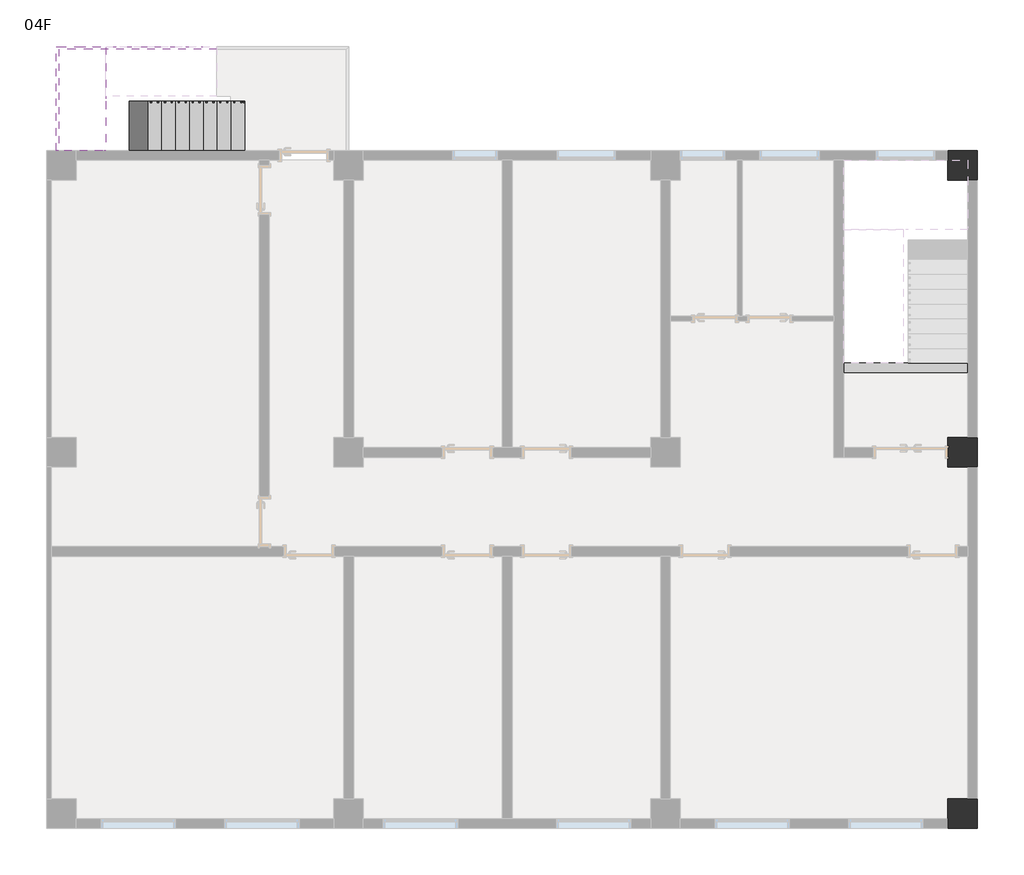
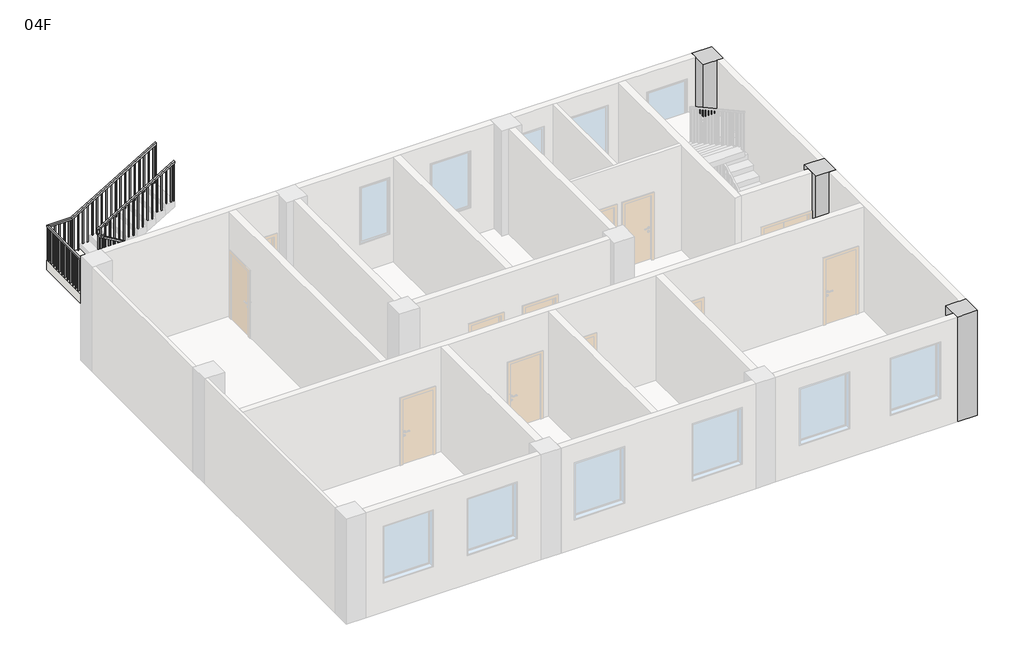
# One storey, part 2 of 3: 3 columns, 2 railings, 1 beam, 1 slab, 1 stair flight.
"""IFC4 building model written with IfcOpenShell, lengths in millimetres."""

import ifcopenshell
import ifcopenshell.guid

model = None  # the IFC model being written
_history = None  # IfcOwnerHistory: only IFC2X3 demands one
_inside = {}  # id of a spatial element -> (the spatial element, [elements in it])
_under = {}  # id of a project, library or spatial element -> (it, [spatial elements below it])
_declared = {}  # id of a project -> (the project, [libraries it declares])
_typed = {}  # id of a type object -> (the type object, [elements of that type])
_made_of = {}  # id of a material, layer set ... -> (it, [elements and type objects made of it])


def new_model(schema):
    """Start an empty IFC model of exactly this schema.

    Asked for "IFC4X3", IfcOpenShell would pick the latest addendum, in which some entities
    have other attributes; the version numbers below select the first issue.
    IFC2X3 requires an IfcOwnerHistory on every rooted entity: one is made here for all.
    """
    global model, _history
    if schema == "IFC4X3":
        model = ifcopenshell.file(schema_version=(4, 3, 0, 0))
    else:
        model = ifcopenshell.file(schema=schema)
    _inside.clear()
    _under.clear()
    _declared.clear()
    _typed.clear()
    _made_of.clear()
    _history = None
    if model.schema == "IFC2X3":
        org = make("IfcOrganization", Name="unknown")
        user = make(
            "IfcPersonAndOrganization",
            ThePerson=make("IfcPerson", FamilyName="unknown"),
            TheOrganization=org,
        )
        app = make(
            "IfcApplication",
            ApplicationDeveloper=org,
            Version="unknown",
            ApplicationFullName="unknown",
            ApplicationIdentifier="unknown",
        )
        _history = make(
            "IfcOwnerHistory",
            OwningUser=user,
            OwningApplication=app,
            ChangeAction="ADDED",
            CreationDate=0,
        )
    return model


def make(cls, **values):
    """One entity of the class cls with the attributes given. An attribute that is None is left unset."""
    return model.create_entity(
        cls, **{name: value for name, value in values.items() if value is not None}
    )


def rooted(cls, **values):
    """An entity with a GlobalId (a new one), such as an element, a storey or a relation."""
    return make(cls, GlobalId=ifcopenshell.guid.new(), OwnerHistory=_history, **values)


def si_unit(unit_type, name, prefix=None):
    """IfcSIUnit, for example si_unit("LENGTHUNIT", "METRE", prefix="MILLI")."""
    return make("IfcSIUnit", UnitType=unit_type, Prefix=prefix, Name=name)


def assignment(units):
    """IfcUnitAssignment: the units of a project."""
    return None if units is None else make("IfcUnitAssignment", Units=units)


def point(xyz):
    """IfcCartesianPoint."""
    return None if xyz is None else make("IfcCartesianPoint", Coordinates=xyz)


def direction(xyz):
    """IfcDirection."""
    return None if xyz is None else make("IfcDirection", DirectionRatios=xyz)


def frame(location, z_axis=None, x_axis=None):
    """IfcAxis2Placement3D, a coordinate frame: its origin and axes. An axis left out is left unset."""
    return make(
        "IfcAxis2Placement3D",
        Location=point(location),
        Axis=direction(z_axis),
        RefDirection=direction(x_axis),
    )


def origin():
    """The frame at (0, 0, 0) with its axes left unset."""
    return frame((0.0, 0.0, 0.0))


def place(relative_to, where):
    """IfcLocalPlacement: puts the frame where relative to a parent placement (None: the world)."""
    return make(
        "IfcLocalPlacement", PlacementRelTo=relative_to, RelativePlacement=where
    )


def context(
    kind, dimensions, precision=None, world=None, true_north=None, identifier=None
):
    """IfcGeometricRepresentationContext, for example the 3D "Model" context."""
    return make(
        "IfcGeometricRepresentationContext",
        ContextIdentifier=identifier,
        ContextType=kind,
        CoordinateSpaceDimension=dimensions,
        Precision=precision,
        WorldCoordinateSystem=world,
        TrueNorth=true_north,
    )


def project(units=None, contexts=None):
    """IfcProject with its units and contexts."""
    return rooted(
        "IfcProject",
        Name="project",
        RepresentationContexts=contexts,
        UnitsInContext=assignment(units),
    )


def spatial(cls, under=None, at=None, **own):
    """A site, building, storey or space (cls), placed at a placement, below another one or the project."""
    s = rooted(cls, ObjectPlacement=at, **own)
    if under is not None:
        _under.setdefault(under.id(), (under, []))[1].append(s)
    return s


def polyline(points):
    """IfcPolyline through the points."""
    return make("IfcPolyline", Points=[point(p) for p in points])


def outline(outer, holes=None, kind="AREA"):
    """IfcArbitraryClosedProfileDef: a profile drawn as a closed curve; with holes, ...WithVoids."""
    if holes is None:
        return make("IfcArbitraryClosedProfileDef", ProfileType=kind, OuterCurve=outer)
    return make(
        "IfcArbitraryProfileDefWithVoids",
        ProfileType=kind,
        OuterCurve=outer,
        InnerCurves=holes,
    )


def extrude(swept, where, along, depth):
    """IfcExtrudedAreaSolid: the profile swept, set in the frame where, extruded along a direction by depth."""
    return make(
        "IfcExtrudedAreaSolid",
        SweptArea=swept,
        Position=where,
        ExtrudedDirection=direction(along),
        Depth=depth,
    )


def faces_of(points, faces, orient=None, outer=None):
    """IfcFace entities. A face is a list of loops; a loop is a list of indices into points, from 0.

    orient and outer hold one flag for each loop. By default every Orientation is true, the
    first loop of a face is its IfcFaceOuterBound and the others are IfcFaceBound.
    """
    made = []
    for i, loops in enumerate(faces):
        bounds = []
        for j, loop in enumerate(loops):
            is_outer = j == 0 if outer is None else outer[i][j]
            bounds.append(
                make(
                    "IfcFaceOuterBound" if is_outer else "IfcFaceBound",
                    Bound=make("IfcPolyLoop", Polygon=[points[k] for k in loop]),
                    Orientation=True if orient is None else orient[i][j],
                )
            )
        made.append(make("IfcFace", Bounds=bounds))
    return made


def faceted_brep(points, faces, orient=None, outer=None, voids=None):
    """IfcFacetedBrep: a solid bounded by flat faces; with voids (closed shells), ...WithVoids."""
    shared = [point(p) for p in points]
    hull = make("IfcClosedShell", CfsFaces=faces_of(shared, faces, orient, outer))
    if voids is None:
        return make("IfcFacetedBrep", Outer=hull)
    return make(
        "IfcFacetedBrepWithVoids",
        Outer=hull,
        Voids=[
            make(cls, CfsFaces=faces_of(shared, fs, o, b)) for cls, fs, o, b in voids
        ],
    )


def shape(context_of_items, identifier, shape_type, items):
    """IfcShapeRepresentation: the items that make up one representation, for example the "Body"."""
    return make(
        "IfcShapeRepresentation",
        ContextOfItems=context_of_items,
        RepresentationIdentifier=identifier,
        RepresentationType=shape_type,
        Items=items,
    )


def source(mapping_origin, context_of_items, identifier, shape_type, items):
    """IfcRepresentationMap: a shape defined once, which mapped items show again and again."""
    return make(
        "IfcRepresentationMap",
        MappingOrigin=mapping_origin,
        MappedRepresentation=shape(context_of_items, identifier, shape_type, items),
    )


def transform(
    local_origin,
    x_axis=None,
    y_axis=None,
    z_axis=None,
    scale=None,
    scale2=None,
    scale3=None,
    uniform=True,
):
    """IfcCartesianTransformationOperator3D, or its non-uniform kind. x_axis, y_axis, z_axis: its Axis1, 2, 3."""
    if uniform:
        return make(
            "IfcCartesianTransformationOperator3D",
            Axis1=direction(x_axis),
            Axis2=direction(y_axis),
            LocalOrigin=point(local_origin),
            Scale=scale,
            Axis3=direction(z_axis),
        )
    return make(
        "IfcCartesianTransformationOperator3DnonUniform",
        Axis1=direction(x_axis),
        Axis2=direction(y_axis),
        LocalOrigin=point(local_origin),
        Scale=scale,
        Axis3=direction(z_axis),
        Scale2=scale2,
        Scale3=scale3,
    )


def mapped(mapping_source, mapping_target):
    """IfcMappedItem: shows the shape of a source again, moved by a transform."""
    return make(
        "IfcMappedItem", MappingSource=mapping_source, MappingTarget=mapping_target
    )


def made_of(thing, what):
    """Note that an element or type object is made of a material, layer set ...; save() writes the relation."""
    if what is not None:
        _made_of.setdefault(what.id(), (what, []))[1].append(thing)
    return thing


def element(
    cls,
    number,
    at=None,
    inside=None,
    cuts=None,
    type_object=None,
    material=None,
    context=None,
    identifier="Body",
    shape_type=None,
    held_by="IfcProductDefinitionShape",
    body=None,
    shapes=None,
    **own,
):
    """One element of the class cls, such as IfcWall. Its Tag is "e" and its number.

    at: its placement. inside: the storey or other place that contains it. cuts: it is an
    opening in that element (IfcRelVoidsElement). A single representation is given by context,
    identifier, shape_type and body (its items); several are given by shapes. held_by: the class
    of the entity that holds the representations. save() writes the other relations.
    """
    e = rooted(cls, Tag="e%d" % number, ObjectPlacement=at, **own)
    if body is not None:
        shapes = [shape(context, identifier, shape_type, body)]
    if shapes is not None:
        e.Representation = make(held_by, Representations=shapes)
    if inside is not None:
        _inside.setdefault(inside.id(), (inside, []))[1].append(e)
    if cuts is not None:
        rooted(
            "IfcRelVoidsElement", RelatingBuildingElement=cuts, RelatedOpeningElement=e
        )
    if type_object is not None:
        _typed.setdefault(type_object.id(), (type_object, []))[1].append(e)
    return made_of(e, material)


def aggregate(whole, parts):
    """IfcRelAggregates: a whole, such as a stair, and the parts it consists of."""
    return rooted("IfcRelAggregates", RelatingObject=whole, RelatedObjects=parts)


def save(model, path):
    """Write the relations noted so far, then the file.

    IfcRelAggregates (storeys below a building ...), IfcRelContainedInSpatialStructure (elements
    in a storey), IfcRelDefinesByType, IfcRelAssociatesMaterial and IfcRelDeclares: one each for
    every whole, place, type object, material and project.
    """
    for whole, parts in _under.values():
        aggregate(whole, parts)
    for where, things in _inside.values():
        rooted(
            "IfcRelContainedInSpatialStructure",
            RelatedElements=things,
            RelatingStructure=where,
        )
    for kind, things in _typed.values():
        rooted("IfcRelDefinesByType", RelatedObjects=things, RelatingType=kind)
    for what, things in _made_of.values():
        rooted("IfcRelAssociatesMaterial", RelatedObjects=things, RelatingMaterial=what)
    for by, libraries in _declared.values():
        rooted("IfcRelDeclares", RelatingContext=by, RelatedDefinitions=libraries)
    model.write(path)


def beam_200_x_350mm_bc6e23a3(model_context):
    return source(origin(), model_context, "Body", "SweptSolid", [
        extrude(outline(polyline([(1250.0, 100.0), (1250.0, -100.0), (-1250.0, -100.0), (-1250.0, 100.0), (1250.0, 100.0)])), frame((0.0, 0.0, -175.0), z_axis=(0.0, 0.0, 1.0), x_axis=(1.0, 0.0, 0.0)), (0.0, 0.0, 1.0), 350.0),
    ])


def column_600_x_600mm_0ba91544(model_context):
    return source(origin(), model_context, "Body", "SweptSolid", [
        extrude(outline(polyline([(300.0, 300.0), (300.0, -300.0), (-300.0, -300.0), (-300.0, 300.0), (300.0, 300.0)])), frame((0.0, 0.0, 10500.0), z_axis=(0.0, 0.0, 1.0), x_axis=(1.0, 0.0, 0.0)), (0.0, 0.0, 1.0), 3300.0),
    ])


model = new_model("IFC4")

# Units and contexts
model_context = context("Model", 3, world=origin())
ifc_project = project(units=[si_unit("LENGTHUNIT", "METRE", prefix="MILLI")], contexts=[model_context])

# Site, building, storey
site = spatial("IfcSite", under=ifc_project)
building = spatial("IfcBuilding", under=site)
storey = spatial("IfcBuildingStorey", under=building, Name="04F", Elevation=10500.0)

# Beam
placement = place(None, origin())
beam_200_x_350mm_shape = beam_200_x_350mm_bc6e23a3(model_context)
element("IfcBeam", 1, ObjectType="混凝土 - 矩形梁 : 200 x 350mm", at=placement, inside=storey, context=model_context, shape_type="MappedRepresentation", body=[
    mapped(beam_200_x_350mm_shape, transform((17250.0, 9200.0, 10325.0), x_axis=(1.0, 0.0, 0.0), y_axis=(0.0, 1.0, 0.0), z_axis=(0.0, 0.0, 1.0))),
])

# Columns
column_600_x_600mm_shape = column_600_x_600mm_0ba91544(model_context)
element("IfcColumn", 2, ObjectType="混凝土 - 矩形 - 柱 : 600 x 600mm", at=placement, inside=storey, context=model_context, shape_type="MappedRepresentation", body=[
    mapped(column_600_x_600mm_shape, transform((18400.0, 13300.0, 0.0), x_axis=(1.0, 0.0, 0.0), y_axis=(0.0, 1.0, 0.0), z_axis=(0.0, 0.0, 1.0))),
])
element("IfcColumn", 3, ObjectType="混凝土 - 矩形 - 柱 : 600 x 600mm", at=placement, inside=storey, context=model_context, shape_type="MappedRepresentation", body=[
    mapped(column_600_x_600mm_shape, transform((18400.0, 7500.0, 0.0), x_axis=(1.0, 0.0, 0.0), y_axis=(0.0, 1.0, 0.0), z_axis=(0.0, 0.0, 1.0))),
])
element("IfcColumn", 4, ObjectType="混凝土 - 矩形 - 柱 : 600 x 600mm", at=placement, inside=storey, context=model_context, shape_type="MappedRepresentation", body=[
    mapped(column_600_x_600mm_shape, transform((18400.0, 200.0, 0.0), x_axis=(1.0, 0.0, 0.0), y_axis=(0.0, 1.0, 0.0), z_axis=(0.0, 0.0, 1.0))),
])

# Railings
element("IfcRailing", 5, ObjectType="1100mm", at=placement, inside=storey, context=model_context, shape_type="SolidModel", body=[
    faceted_brep([(3900.0, 14549.6, 11765.0), (3900.0, 14549.6, 11706.9642857), (3900.0, 14599.6, 11706.9642857), (3900.0, 14599.6, 11765.0), (1174.6, 14549.6, 13371.0392857), (1124.6, 14549.6, 13342.4678571), (1124.6, 14599.6, 13342.4678571), (1174.6, 14599.6, 13371.0392857), (1174.6, 14549.6, 13415.0), (1124.6, 14549.6, 13365.0), (1124.6, 14599.6, 13365.0), (1174.6, 14599.6, 13415.0), (1049.6, 14549.6, 13415.0), (1049.6, 14549.6, 13365.0), (1099.6, 14599.6, 13365.0), (1099.6, 14599.6, 13415.0), (1049.6, 14674.6, 13415.0), (1049.6, 14674.6, 13365.0), (1099.6, 14674.6, 13365.0), (1099.6, 14674.6, 13415.0), (1049.6, 14700.4, 13415.0), (1099.6, 14700.4, 13415.0), (1099.6, 14750.4, 13365.0), (1049.6, 14750.4, 13365.0)], [[[0, 1, 2, 3]], [[1, 0, 4, 5]], [[2, 1, 5, 6]], [[3, 2, 6, 7]], [[0, 3, 7, 4]], [[5, 4, 8, 9]], [[6, 5, 9, 10]], [[7, 6, 10, 11]], [[4, 7, 11, 8]], [[9, 8, 12, 13]], [[10, 9, 13, 14]], [[11, 10, 14, 15]], [[8, 11, 15, 12]], [[13, 12, 16, 17]], [[14, 13, 17, 18]], [[15, 14, 18, 19]], [[12, 15, 19, 16]], [[20, 21, 22, 23]], [[17, 16, 20, 23]], [[18, 17, 23, 22]], [[19, 18, 22, 21]], [[16, 19, 21, 20]]]),
    faceted_brep([(1049.6, 14700.4, 13415.0), (1049.6, 14750.4, 13365.0), (1099.6, 14750.4, 13365.0), (1099.6, 14700.4, 13415.0), (1049.6, 14700.4, 13550.3), (1099.6, 14700.4, 13521.7285714), (1099.6, 14750.4, 13521.7285714), (1049.6, 14750.4, 13550.3)], [[[0, 1, 2, 3]], [[4, 5, 6, 7]], [[1, 0, 4, 7]], [[2, 1, 7, 6]], [[3, 2, 6, 5]], [[0, 3, 5, 4]]]),
    faceted_brep([(1049.6, 14750.4, 13550.3), (1099.6, 14750.4, 13521.7285714), (1099.6, 14700.4, 13521.7285714), (1049.6, 14700.4, 13550.3), (3340.0, 14750.4, 14900.0), (3340.0, 14700.4, 14900.0), (3340.0, 14700.4, 14841.9642857), (3340.0, 14750.4, 14841.9642857)], [[[0, 1, 2, 3]], [[4, 5, 6, 7]], [[1, 0, 4, 7]], [[2, 1, 7, 6]], [[3, 2, 6, 5]], [[0, 3, 5, 4]]]),
    extrude(outline(polyline([(14778.3803571, 3232.1), (13635.0, 3232.1), (13635.0, 3257.1), (14793.1125, 3257.1), (14778.3803571, 3232.1)])), frame((0.0, 14712.9, 0.0), z_axis=(0.0, 1.0, 0.0), x_axis=(0.0, 0.0, 1.0)), (0.0, 0.0, 1.0), 25.0),
    extrude(outline(polyline([(14695.8803571, 3092.1), (13635.0, 3092.1), (13635.0, 3117.1), (14710.6125, 3117.1), (14695.8803571, 3092.1)])), frame((0.0, 14712.9, 0.0), z_axis=(0.0, 1.0, 0.0), x_axis=(0.0, 0.0, 1.0)), (0.0, 0.0, 1.0), 25.0),
    extrude(outline(polyline([(14613.3803571, 2952.1), (13470.0, 2952.1), (13470.0, 2977.1), (14628.1125, 2977.1), (14613.3803571, 2952.1)])), frame((0.0, 14712.9, 0.0), z_axis=(0.0, 1.0, 0.0), x_axis=(0.0, 0.0, 1.0)), (0.0, 0.0, 1.0), 25.0),
    extrude(outline(polyline([(14530.8803571, 2812.1), (13470.0, 2812.1), (13470.0, 2837.1), (14545.6125, 2837.1), (14530.8803571, 2812.1)])), frame((0.0, 14712.9, 0.0), z_axis=(0.0, 1.0, 0.0), x_axis=(0.0, 0.0, 1.0)), (0.0, 0.0, 1.0), 25.0),
    extrude(outline(polyline([(14448.3803571, 2672.1), (13305.0, 2672.1), (13305.0, 2697.1), (14463.1125, 2697.1), (14448.3803571, 2672.1)])), frame((0.0, 14712.9, 0.0), z_axis=(0.0, 1.0, 0.0), x_axis=(0.0, 0.0, 1.0)), (0.0, 0.0, 1.0), 25.0),
    extrude(outline(polyline([(14365.8803571, 2532.1), (13305.0, 2532.1), (13305.0, 2557.1), (14380.6125, 2557.1), (14365.8803571, 2532.1)])), frame((0.0, 14712.9, 0.0), z_axis=(0.0, 1.0, 0.0), x_axis=(0.0, 0.0, 1.0)), (0.0, 0.0, 1.0), 25.0),
    extrude(outline(polyline([(14283.3803571, 2392.1), (13140.0, 2392.1), (13140.0, 2417.1), (14298.1125, 2417.1), (14283.3803571, 2392.1)])), frame((0.0, 14712.9, 0.0), z_axis=(0.0, 1.0, 0.0), x_axis=(0.0, 0.0, 1.0)), (0.0, 0.0, 1.0), 25.0),
    extrude(outline(polyline([(14200.8803571, 2252.1), (13140.0, 2252.1), (13140.0, 2277.1), (14215.6125, 2277.1), (14200.8803571, 2252.1)])), frame((0.0, 14712.9, 0.0), z_axis=(0.0, 1.0, 0.0), x_axis=(0.0, 0.0, 1.0)), (0.0, 0.0, 1.0), 25.0),
    extrude(outline(polyline([(14118.3803571, 2112.1), (12975.0, 2112.1), (12975.0, 2137.1), (14133.1125, 2137.1), (14118.3803571, 2112.1)])), frame((0.0, 14712.9, 0.0), z_axis=(0.0, 1.0, 0.0), x_axis=(0.0, 0.0, 1.0)), (0.0, 0.0, 1.0), 25.0),
    extrude(outline(polyline([(14035.8803571, 1972.1), (12975.0, 1972.1), (12975.0, 1997.1), (14050.6125, 1997.1), (14035.8803571, 1972.1)])), frame((0.0, 14712.9, 0.0), z_axis=(0.0, 1.0, 0.0), x_axis=(0.0, 0.0, 1.0)), (0.0, 0.0, 1.0), 25.0),
    extrude(outline(polyline([(13953.3803571, 1832.1), (12810.0, 1832.1), (12810.0, 1857.1), (13968.1125, 1857.1), (13953.3803571, 1832.1)])), frame((0.0, 14712.9, 0.0), z_axis=(0.0, 1.0, 0.0), x_axis=(0.0, 0.0, 1.0)), (0.0, 0.0, 1.0), 25.0),
    extrude(outline(polyline([(13870.8803571, 1692.1), (12810.0, 1692.1), (12810.0, 1717.1), (13885.6125, 1717.1), (13870.8803571, 1692.1)])), frame((0.0, 14712.9, 0.0), z_axis=(0.0, 1.0, 0.0), x_axis=(0.0, 0.0, 1.0)), (0.0, 0.0, 1.0), 25.0),
    extrude(outline(polyline([(13788.3803571, 1552.1), (12645.0, 1552.1), (12645.0, 1577.1), (13803.1125, 1577.1), (13788.3803571, 1552.1)])), frame((0.0, 14712.9, 0.0), z_axis=(0.0, 1.0, 0.0), x_axis=(0.0, 0.0, 1.0)), (0.0, 0.0, 1.0), 25.0),
    extrude(outline(polyline([(13705.8803571, 1412.1), (12645.0, 1412.1), (12645.0, 1437.1), (13720.6125, 1437.1), (13705.8803571, 1412.1)])), frame((0.0, 14712.9, 0.0), z_axis=(0.0, 1.0, 0.0), x_axis=(0.0, 0.0, 1.0)), (0.0, 0.0, 1.0), 25.0),
    extrude(outline(polyline([(13623.3803571, 1272.1), (12480.0, 1272.1), (12480.0, 1297.1), (13638.1125, 1297.1), (13623.3803571, 1272.1)])), frame((0.0, 14712.9, 0.0), z_axis=(0.0, 1.0, 0.0), x_axis=(0.0, 0.0, 1.0)), (0.0, 0.0, 1.0), 25.0),
    extrude(outline(polyline([(13540.8803571, 1132.1), (12480.0, 1132.1), (12480.0, 1157.1), (13555.6125, 1157.1), (13540.8803571, 1132.1)])), frame((0.0, 14712.9, 0.0), z_axis=(0.0, 1.0, 0.0), x_axis=(0.0, 0.0, 1.0)), (0.0, 0.0, 1.0), 25.0),
    extrude(outline(polyline([(1087.1, 14632.1), (1062.1, 14632.1), (1062.1, 14657.1), (1087.1, 14657.1), (1087.1, 14632.1)])), frame((0.0, 0.0, 12315.0), z_axis=(0.0, 0.0, 1.0), x_axis=(1.0, 0.0, 0.0)), (0.0, 0.0, 1.0), 1050.0),
    extrude(outline(polyline([(12150.0, 1182.5), (13308.3482143, 1182.5), (13323.0803571, 1157.5), (12150.0, 1157.5), (12150.0, 1182.5)])), frame((0.0, 14562.1, 0.0), z_axis=(0.0, 1.0, 0.0), x_axis=(0.0, 0.0, 1.0)), (0.0, 0.0, 1.0), 25.0),
    extrude(outline(polyline([(12150.0, 1322.5), (13225.8482143, 1322.5), (13240.5803571, 1297.5), (12150.0, 1297.5), (12150.0, 1322.5)])), frame((0.0, 14562.1, 0.0), z_axis=(0.0, 1.0, 0.0), x_axis=(0.0, 0.0, 1.0)), (0.0, 0.0, 1.0), 25.0),
    extrude(outline(polyline([(11985.0, 1462.5), (13143.3482143, 1462.5), (13158.0803571, 1437.5), (11985.0, 1437.5), (11985.0, 1462.5)])), frame((0.0, 14562.1, 0.0), z_axis=(0.0, 1.0, 0.0), x_axis=(0.0, 0.0, 1.0)), (0.0, 0.0, 1.0), 25.0),
    extrude(outline(polyline([(11985.0, 1602.5), (13060.8482143, 1602.5), (13075.5803571, 1577.5), (11985.0, 1577.5), (11985.0, 1602.5)])), frame((0.0, 14562.1, 0.0), z_axis=(0.0, 1.0, 0.0), x_axis=(0.0, 0.0, 1.0)), (0.0, 0.0, 1.0), 25.0),
    extrude(outline(polyline([(11820.0, 1742.5), (12978.3482143, 1742.5), (12993.0803571, 1717.5), (11820.0, 1717.5), (11820.0, 1742.5)])), frame((0.0, 14562.1, 0.0), z_axis=(0.0, 1.0, 0.0), x_axis=(0.0, 0.0, 1.0)), (0.0, 0.0, 1.0), 25.0),
    extrude(outline(polyline([(11820.0, 1882.5), (12895.8482143, 1882.5), (12910.5803571, 1857.5), (11820.0, 1857.5), (11820.0, 1882.5)])), frame((0.0, 14562.1, 0.0), z_axis=(0.0, 1.0, 0.0), x_axis=(0.0, 0.0, 1.0)), (0.0, 0.0, 1.0), 25.0),
    extrude(outline(polyline([(11655.0, 2022.5), (12813.3482143, 2022.5), (12828.0803571, 1997.5), (11655.0, 1997.5), (11655.0, 2022.5)])), frame((0.0, 14562.1, 0.0), z_axis=(0.0, 1.0, 0.0), x_axis=(0.0, 0.0, 1.0)), (0.0, 0.0, 1.0), 25.0),
    extrude(outline(polyline([(11655.0, 2162.5), (12730.8482143, 2162.5), (12745.5803571, 2137.5), (11655.0, 2137.5), (11655.0, 2162.5)])), frame((0.0, 14562.1, 0.0), z_axis=(0.0, 1.0, 0.0), x_axis=(0.0, 0.0, 1.0)), (0.0, 0.0, 1.0), 25.0),
    extrude(outline(polyline([(11490.0, 2302.5), (12648.3482143, 2302.5), (12663.0803571, 2277.5), (11490.0, 2277.5), (11490.0, 2302.5)])), frame((0.0, 14562.1, 0.0), z_axis=(0.0, 1.0, 0.0), x_axis=(0.0, 0.0, 1.0)), (0.0, 0.0, 1.0), 25.0),
    extrude(outline(polyline([(11490.0, 2442.5), (12565.8482143, 2442.5), (12580.5803571, 2417.5), (11490.0, 2417.5), (11490.0, 2442.5)])), frame((0.0, 14562.1, 0.0), z_axis=(0.0, 1.0, 0.0), x_axis=(0.0, 0.0, 1.0)), (0.0, 0.0, 1.0), 25.0),
    extrude(outline(polyline([(11325.0, 2582.5), (12483.3482143, 2582.5), (12498.0803571, 2557.5), (11325.0, 2557.5), (11325.0, 2582.5)])), frame((0.0, 14562.1, 0.0), z_axis=(0.0, 1.0, 0.0), x_axis=(0.0, 0.0, 1.0)), (0.0, 0.0, 1.0), 25.0),
    extrude(outline(polyline([(11325.0, 2722.5), (12400.8482143, 2722.5), (12415.5803571, 2697.5), (11325.0, 2697.5), (11325.0, 2722.5)])), frame((0.0, 14562.1, 0.0), z_axis=(0.0, 1.0, 0.0), x_axis=(0.0, 0.0, 1.0)), (0.0, 0.0, 1.0), 25.0),
    extrude(outline(polyline([(11160.0, 2862.5), (12318.3482143, 2862.5), (12333.0803571, 2837.5), (11160.0, 2837.5), (11160.0, 2862.5)])), frame((0.0, 14562.1, 0.0), z_axis=(0.0, 1.0, 0.0), x_axis=(0.0, 0.0, 1.0)), (0.0, 0.0, 1.0), 25.0),
    extrude(outline(polyline([(11160.0, 3002.5), (12235.8482143, 3002.5), (12250.5803571, 2977.5), (11160.0, 2977.5), (11160.0, 3002.5)])), frame((0.0, 14562.1, 0.0), z_axis=(0.0, 1.0, 0.0), x_axis=(0.0, 0.0, 1.0)), (0.0, 0.0, 1.0), 25.0),
    extrude(outline(polyline([(10995.0, 3142.5), (12153.3482143, 3142.5), (12168.0803571, 3117.5), (10995.0, 3117.5), (10995.0, 3142.5)])), frame((0.0, 14562.1, 0.0), z_axis=(0.0, 1.0, 0.0), x_axis=(0.0, 0.0, 1.0)), (0.0, 0.0, 1.0), 25.0),
    extrude(outline(polyline([(10995.0, 3282.5), (12070.8482143, 3282.5), (12085.5803571, 3257.5), (10995.0, 3257.5), (10995.0, 3282.5)])), frame((0.0, 14562.1, 0.0), z_axis=(0.0, 1.0, 0.0), x_axis=(0.0, 0.0, 1.0)), (0.0, 0.0, 1.0), 25.0),
    extrude(outline(polyline([(10830.0, 3422.5), (11988.3482143, 3422.5), (12003.0803571, 3397.5), (10830.0, 3397.5), (10830.0, 3422.5)])), frame((0.0, 14562.1, 0.0), z_axis=(0.0, 1.0, 0.0), x_axis=(0.0, 0.0, 1.0)), (0.0, 0.0, 1.0), 25.0),
    extrude(outline(polyline([(10830.0, 3562.5), (11905.8482143, 3562.5), (11920.5803571, 3537.5), (10830.0, 3537.5), (10830.0, 3562.5)])), frame((0.0, 14562.1, 0.0), z_axis=(0.0, 1.0, 0.0), x_axis=(0.0, 0.0, 1.0)), (0.0, 0.0, 1.0), 25.0),
    extrude(outline(polyline([(10665.0, 3702.5), (11823.3482143, 3702.5), (11838.0803571, 3677.5), (10665.0, 3677.5), (10665.0, 3702.5)])), frame((0.0, 14562.1, 0.0), z_axis=(0.0, 1.0, 0.0), x_axis=(0.0, 0.0, 1.0)), (0.0, 0.0, 1.0), 25.0),
    extrude(outline(polyline([(10665.0, 3842.5), (11740.8482143, 3842.5), (11755.5803571, 3817.5), (10665.0, 3817.5), (10665.0, 3842.5)])), frame((0.0, 14562.1, 0.0), z_axis=(0.0, 1.0, 0.0), x_axis=(0.0, 0.0, 1.0)), (0.0, 0.0, 1.0), 25.0),
    extrude(outline(polyline([(1062.1, 14712.9), (1062.1, 14737.9), (1087.1, 14737.9), (1087.1, 14712.9), (1062.1, 14712.9)])), frame((0.0, 0.0, 12315.0), z_axis=(0.0, 0.0, 1.0), x_axis=(1.0, 0.0, 0.0)), (0.0, 0.0, 1.0), 1050.0),
    extrude(outline(polyline([(1087.1, 14587.1), (1087.1, 14562.1), (1062.1, 14562.1), (1062.1, 14587.1), (1087.1, 14587.1)])), frame((0.0, 0.0, 12315.0), z_axis=(0.0, 0.0, 1.0), x_axis=(1.0, 0.0, 0.0)), (0.0, 0.0, 1.0), 1050.0),
    extrude(outline(polyline([(1112.5, 14587.1), (1112.5, 14562.1), (1087.5, 14562.1), (1087.5, 14587.1), (1112.5, 14587.1)])), frame((0.0, 0.0, 12315.0), z_axis=(0.0, 0.0, 1.0), x_axis=(1.0, 0.0, 0.0)), (0.0, 0.0, 1.0), 1050.0),
    extrude(outline(polyline([(14827.2321429, 3315.0), (13635.0, 3315.0), (13635.0, 3340.0), (14841.9642857, 3340.0), (14827.2321429, 3315.0)])), frame((0.0, 14712.9, 0.0), z_axis=(0.0, 1.0, 0.0), x_axis=(0.0, 0.0, 1.0)), (0.0, 0.0, 1.0), 25.0),
    extrude(outline(polyline([(10665.0, 3900.0), (11706.9642857, 3900.0), (11721.6964286, 3875.0), (10665.0, 3875.0), (10665.0, 3900.0)])), frame((0.0, 14562.1, 0.0), z_axis=(0.0, 1.0, 0.0), x_axis=(0.0, 0.0, 1.0)), (0.0, 0.0, 1.0), 25.0),
])
element("IfcRailing", 6, ObjectType="1100mm", at=placement, inside=storey, context=model_context, shape_type="SolidModel", body=[
    faceted_brep([(100.4, 13600.0, 13415.0), (100.4, 13600.0, 13365.0), (150.4, 13600.0, 13365.0), (150.4, 13600.0, 13415.0), (100.4, 15699.6, 13415.0), (100.4, 15699.6, 13365.0), (150.4, 15649.6, 13365.0), (150.4, 15649.6, 13415.0), (820.0, 15699.6, 13415.0), (833.6363636, 15699.6, 13365.0), (833.6363636, 15649.6, 13365.0), (820.0, 15649.6, 13415.0), (3340.0, 15699.6, 14900.0), (3340.0, 15649.6, 14900.0), (3340.0, 15649.6, 14841.9642857), (3340.0, 15699.6, 14841.9642857)], [[[0, 1, 2, 3]], [[1, 0, 4, 5]], [[2, 1, 5, 6]], [[3, 2, 6, 7]], [[0, 3, 7, 4]], [[5, 4, 8, 9]], [[6, 5, 9, 10]], [[7, 6, 10, 11]], [[4, 7, 11, 8]], [[12, 13, 14, 15]], [[9, 8, 12, 15]], [[10, 9, 15, 14]], [[11, 10, 14, 13]], [[8, 11, 13, 12]]]),
    extrude(outline(polyline([(13635.0, 3257.5), (13635.0, 3282.5), (14808.0803571, 3282.5), (14793.3482143, 3257.5), (13635.0, 3257.5)])), frame((0.0, 15662.1, 0.0), z_axis=(0.0, 1.0, 0.0), x_axis=(0.0, 0.0, 1.0)), (0.0, 0.0, 1.0), 25.0),
    extrude(outline(polyline([(13635.0, 3117.5), (13635.0, 3142.5), (14725.5803571, 3142.5), (14710.8482143, 3117.5), (13635.0, 3117.5)])), frame((0.0, 15662.1, 0.0), z_axis=(0.0, 1.0, 0.0), x_axis=(0.0, 0.0, 1.0)), (0.0, 0.0, 1.0), 25.0),
    extrude(outline(polyline([(13470.0, 2977.5), (13470.0, 3002.5), (14643.0803571, 3002.5), (14628.3482143, 2977.5), (13470.0, 2977.5)])), frame((0.0, 15662.1, 0.0), z_axis=(0.0, 1.0, 0.0), x_axis=(0.0, 0.0, 1.0)), (0.0, 0.0, 1.0), 25.0),
    extrude(outline(polyline([(13470.0, 2837.5), (13470.0, 2862.5), (14560.5803571, 2862.5), (14545.8482143, 2837.5), (13470.0, 2837.5)])), frame((0.0, 15662.1, 0.0), z_axis=(0.0, 1.0, 0.0), x_axis=(0.0, 0.0, 1.0)), (0.0, 0.0, 1.0), 25.0),
    extrude(outline(polyline([(13305.0, 2697.5), (13305.0, 2722.5), (14478.0803571, 2722.5), (14463.3482143, 2697.5), (13305.0, 2697.5)])), frame((0.0, 15662.1, 0.0), z_axis=(0.0, 1.0, 0.0), x_axis=(0.0, 0.0, 1.0)), (0.0, 0.0, 1.0), 25.0),
    extrude(outline(polyline([(13305.0, 2557.5), (13305.0, 2582.5), (14395.5803571, 2582.5), (14380.8482143, 2557.5), (13305.0, 2557.5)])), frame((0.0, 15662.1, 0.0), z_axis=(0.0, 1.0, 0.0), x_axis=(0.0, 0.0, 1.0)), (0.0, 0.0, 1.0), 25.0),
    extrude(outline(polyline([(13140.0, 2417.5), (13140.0, 2442.5), (14313.0803571, 2442.5), (14298.3482143, 2417.5), (13140.0, 2417.5)])), frame((0.0, 15662.1, 0.0), z_axis=(0.0, 1.0, 0.0), x_axis=(0.0, 0.0, 1.0)), (0.0, 0.0, 1.0), 25.0),
    extrude(outline(polyline([(13140.0, 2277.5), (13140.0, 2302.5), (14230.5803571, 2302.5), (14215.8482143, 2277.5), (13140.0, 2277.5)])), frame((0.0, 15662.1, 0.0), z_axis=(0.0, 1.0, 0.0), x_axis=(0.0, 0.0, 1.0)), (0.0, 0.0, 1.0), 25.0),
    extrude(outline(polyline([(12975.0, 2137.5), (12975.0, 2162.5), (14148.0803571, 2162.5), (14133.3482143, 2137.5), (12975.0, 2137.5)])), frame((0.0, 15662.1, 0.0), z_axis=(0.0, 1.0, 0.0), x_axis=(0.0, 0.0, 1.0)), (0.0, 0.0, 1.0), 25.0),
    extrude(outline(polyline([(12975.0, 1997.5), (12975.0, 2022.5), (14065.5803571, 2022.5), (14050.8482143, 1997.5), (12975.0, 1997.5)])), frame((0.0, 15662.1, 0.0), z_axis=(0.0, 1.0, 0.0), x_axis=(0.0, 0.0, 1.0)), (0.0, 0.0, 1.0), 25.0),
    extrude(outline(polyline([(12810.0, 1857.5), (12810.0, 1882.5), (13983.0803571, 1882.5), (13968.3482143, 1857.5), (12810.0, 1857.5)])), frame((0.0, 15662.1, 0.0), z_axis=(0.0, 1.0, 0.0), x_axis=(0.0, 0.0, 1.0)), (0.0, 0.0, 1.0), 25.0),
    extrude(outline(polyline([(12810.0, 1717.5), (12810.0, 1742.5), (13900.5803571, 1742.5), (13885.8482143, 1717.5), (12810.0, 1717.5)])), frame((0.0, 15662.1, 0.0), z_axis=(0.0, 1.0, 0.0), x_axis=(0.0, 0.0, 1.0)), (0.0, 0.0, 1.0), 25.0),
    extrude(outline(polyline([(12645.0, 1577.5), (12645.0, 1602.5), (13818.0803571, 1602.5), (13803.3482143, 1577.5), (12645.0, 1577.5)])), frame((0.0, 15662.1, 0.0), z_axis=(0.0, 1.0, 0.0), x_axis=(0.0, 0.0, 1.0)), (0.0, 0.0, 1.0), 25.0),
    extrude(outline(polyline([(12645.0, 1437.5), (12645.0, 1462.5), (13735.5803571, 1462.5), (13720.8482143, 1437.5), (12645.0, 1437.5)])), frame((0.0, 15662.1, 0.0), z_axis=(0.0, 1.0, 0.0), x_axis=(0.0, 0.0, 1.0)), (0.0, 0.0, 1.0), 25.0),
    extrude(outline(polyline([(12480.0, 1297.5), (12480.0, 1322.5), (13653.0803571, 1322.5), (13638.3482143, 1297.5), (12480.0, 1297.5)])), frame((0.0, 15662.1, 0.0), z_axis=(0.0, 1.0, 0.0), x_axis=(0.0, 0.0, 1.0)), (0.0, 0.0, 1.0), 25.0),
    extrude(outline(polyline([(12480.0, 1157.5), (12480.0, 1182.5), (13570.5803571, 1182.5), (13555.8482143, 1157.5), (12480.0, 1157.5)])), frame((0.0, 15662.1, 0.0), z_axis=(0.0, 1.0, 0.0), x_axis=(0.0, 0.0, 1.0)), (0.0, 0.0, 1.0), 25.0),
    extrude(outline(polyline([(12315.0, 1017.5), (12315.0, 1042.5), (13488.0803571, 1042.5), (13473.3482143, 1017.5), (12315.0, 1017.5)])), frame((0.0, 15662.1, 0.0), z_axis=(0.0, 1.0, 0.0), x_axis=(0.0, 0.0, 1.0)), (0.0, 0.0, 1.0), 25.0),
    extrude(outline(polyline([(12315.0, 877.5), (12315.0, 902.5), (13405.5803571, 902.5), (13390.8482143, 877.5), (12315.0, 877.5)])), frame((0.0, 15662.1, 0.0), z_axis=(0.0, 1.0, 0.0), x_axis=(0.0, 0.0, 1.0)), (0.0, 0.0, 1.0), 25.0),
    extrude(outline(polyline([(742.9, 15687.1), (767.9, 15687.1), (767.9, 15662.1), (742.9, 15662.1), (742.9, 15687.1)])), frame((0.0, 0.0, 12315.0), z_axis=(0.0, 0.0, 1.0), x_axis=(1.0, 0.0, 0.0)), (0.0, 0.0, 1.0), 1050.0),
    extrude(outline(polyline([(602.9, 15687.1), (627.9, 15687.1), (627.9, 15662.1), (602.9, 15662.1), (602.9, 15687.1)])), frame((0.0, 0.0, 12315.0), z_axis=(0.0, 0.0, 1.0), x_axis=(1.0, 0.0, 0.0)), (0.0, 0.0, 1.0), 1050.0),
    extrude(outline(polyline([(462.9, 15687.1), (487.9, 15687.1), (487.9, 15662.1), (462.9, 15662.1), (462.9, 15687.1)])), frame((0.0, 0.0, 12315.0), z_axis=(0.0, 0.0, 1.0), x_axis=(1.0, 0.0, 0.0)), (0.0, 0.0, 1.0), 1050.0),
    extrude(outline(polyline([(322.9, 15687.1), (347.9, 15687.1), (347.9, 15662.1), (322.9, 15662.1), (322.9, 15687.1)])), frame((0.0, 0.0, 12315.0), z_axis=(0.0, 0.0, 1.0), x_axis=(1.0, 0.0, 0.0)), (0.0, 0.0, 1.0), 1050.0),
    extrude(outline(polyline([(182.9, 15687.1), (207.9, 15687.1), (207.9, 15662.1), (182.9, 15662.1), (182.9, 15687.1)])), frame((0.0, 0.0, 12315.0), z_axis=(0.0, 0.0, 1.0), x_axis=(1.0, 0.0, 0.0)), (0.0, 0.0, 1.0), 1050.0),
    extrude(outline(polyline([(112.9, 15617.5), (112.9, 15642.5), (137.9, 15642.5), (137.9, 15617.5), (112.9, 15617.5)])), frame((0.0, 0.0, 12315.0), z_axis=(0.0, 0.0, 1.0), x_axis=(1.0, 0.0, 0.0)), (0.0, 0.0, 1.0), 1050.0),
    extrude(outline(polyline([(112.9, 15477.5), (112.9, 15502.5), (137.9, 15502.5), (137.9, 15477.5), (112.9, 15477.5)])), frame((0.0, 0.0, 12315.0), z_axis=(0.0, 0.0, 1.0), x_axis=(1.0, 0.0, 0.0)), (0.0, 0.0, 1.0), 1050.0),
    extrude(outline(polyline([(112.9, 15337.5), (112.9, 15362.5), (137.9, 15362.5), (137.9, 15337.5), (112.9, 15337.5)])), frame((0.0, 0.0, 12315.0), z_axis=(0.0, 0.0, 1.0), x_axis=(1.0, 0.0, 0.0)), (0.0, 0.0, 1.0), 1050.0),
    extrude(outline(polyline([(112.9, 15197.5), (112.9, 15222.5), (137.9, 15222.5), (137.9, 15197.5), (112.9, 15197.5)])), frame((0.0, 0.0, 12315.0), z_axis=(0.0, 0.0, 1.0), x_axis=(1.0, 0.0, 0.0)), (0.0, 0.0, 1.0), 1050.0),
    extrude(outline(polyline([(112.9, 15057.5), (112.9, 15082.5), (137.9, 15082.5), (137.9, 15057.5), (112.9, 15057.5)])), frame((0.0, 0.0, 12315.0), z_axis=(0.0, 0.0, 1.0), x_axis=(1.0, 0.0, 0.0)), (0.0, 0.0, 1.0), 1050.0),
    extrude(outline(polyline([(112.9, 14917.5), (112.9, 14942.5), (137.9, 14942.5), (137.9, 14917.5), (112.9, 14917.5)])), frame((0.0, 0.0, 12315.0), z_axis=(0.0, 0.0, 1.0), x_axis=(1.0, 0.0, 0.0)), (0.0, 0.0, 1.0), 1050.0),
    extrude(outline(polyline([(112.9, 14777.5), (112.9, 14802.5), (137.9, 14802.5), (137.9, 14777.5), (112.9, 14777.5)])), frame((0.0, 0.0, 12315.0), z_axis=(0.0, 0.0, 1.0), x_axis=(1.0, 0.0, 0.0)), (0.0, 0.0, 1.0), 1050.0),
    extrude(outline(polyline([(112.9, 14637.5), (112.9, 14662.5), (137.9, 14662.5), (137.9, 14637.5), (112.9, 14637.5)])), frame((0.0, 0.0, 12315.0), z_axis=(0.0, 0.0, 1.0), x_axis=(1.0, 0.0, 0.0)), (0.0, 0.0, 1.0), 1050.0),
    extrude(outline(polyline([(112.9, 14497.5), (112.9, 14522.5), (137.9, 14522.5), (137.9, 14497.5), (112.9, 14497.5)])), frame((0.0, 0.0, 12315.0), z_axis=(0.0, 0.0, 1.0), x_axis=(1.0, 0.0, 0.0)), (0.0, 0.0, 1.0), 1050.0),
    extrude(outline(polyline([(112.9, 14357.5), (112.9, 14382.5), (137.9, 14382.5), (137.9, 14357.5), (112.9, 14357.5)])), frame((0.0, 0.0, 12315.0), z_axis=(0.0, 0.0, 1.0), x_axis=(1.0, 0.0, 0.0)), (0.0, 0.0, 1.0), 1050.0),
    extrude(outline(polyline([(112.9, 14217.5), (112.9, 14242.5), (137.9, 14242.5), (137.9, 14217.5), (112.9, 14217.5)])), frame((0.0, 0.0, 12315.0), z_axis=(0.0, 0.0, 1.0), x_axis=(1.0, 0.0, 0.0)), (0.0, 0.0, 1.0), 1050.0),
    extrude(outline(polyline([(112.9, 14077.5), (112.9, 14102.5), (137.9, 14102.5), (137.9, 14077.5), (112.9, 14077.5)])), frame((0.0, 0.0, 12315.0), z_axis=(0.0, 0.0, 1.0), x_axis=(1.0, 0.0, 0.0)), (0.0, 0.0, 1.0), 1050.0),
    extrude(outline(polyline([(112.9, 13937.5), (112.9, 13962.5), (137.9, 13962.5), (137.9, 13937.5), (112.9, 13937.5)])), frame((0.0, 0.0, 12315.0), z_axis=(0.0, 0.0, 1.0), x_axis=(1.0, 0.0, 0.0)), (0.0, 0.0, 1.0), 1050.0),
    extrude(outline(polyline([(112.9, 13797.5), (112.9, 13822.5), (137.9, 13822.5), (137.9, 13797.5), (112.9, 13797.5)])), frame((0.0, 0.0, 12315.0), z_axis=(0.0, 0.0, 1.0), x_axis=(1.0, 0.0, 0.0)), (0.0, 0.0, 1.0), 1050.0),
    extrude(outline(polyline([(112.9, 13657.5), (112.9, 13682.5), (137.9, 13682.5), (137.9, 13657.5), (112.9, 13657.5)])), frame((0.0, 0.0, 12315.0), z_axis=(0.0, 0.0, 1.0), x_axis=(1.0, 0.0, 0.0)), (0.0, 0.0, 1.0), 1050.0),
    extrude(outline(polyline([(807.5, 15687.1), (832.5, 15687.1), (832.5, 15662.1), (807.5, 15662.1), (807.5, 15687.1)])), frame((0.0, 0.0, 12315.0), z_axis=(0.0, 0.0, 1.0), x_axis=(1.0, 0.0, 0.0)), (0.0, 0.0, 1.0), 1050.0),
    extrude(outline(polyline([(112.9, 15662.1), (112.9, 15687.1), (137.9, 15687.1), (137.9, 15662.1), (112.9, 15662.1)])), frame((0.0, 0.0, 12315.0), z_axis=(0.0, 0.0, 1.0), x_axis=(1.0, 0.0, 0.0)), (0.0, 0.0, 1.0), 1050.0),
    extrude(outline(polyline([(13635.0, 3315.0), (13635.0, 3340.0), (14841.9642857, 3340.0), (14827.2321429, 3315.0), (13635.0, 3315.0)])), frame((0.0, 15662.1, 0.0), z_axis=(0.0, 1.0, 0.0), x_axis=(0.0, 0.0, 1.0)), (0.0, 0.0, 1.0), 25.0),
    extrude(outline(polyline([(112.9, 13600.0), (112.9, 13625.0), (137.9, 13625.0), (137.9, 13600.0), (112.9, 13600.0)])), frame((0.0, 0.0, 12315.0), z_axis=(0.0, 0.0, 1.0), x_axis=(1.0, 0.0, 0.0)), (0.0, 0.0, 1.0), 1050.0),
])

# Slab
element("IfcSlab", 7, ObjectType="300mm 厚度", at=placement, inside=storey, context=model_context, shape_type="Brep", body=[
    faceted_brep([(1100.0, 13600.0, 12315.0), (1100.0, 14600.0, 12315.0), (1100.0, 14700.0, 12315.0), (1100.0, 15700.0, 12315.0), (886.3636364, 15700.0, 12315.0), (100.0, 15700.0, 12315.0), (100.0, 13600.0, 12315.0), (1033.6363636, 13600.0, 12315.0), (1100.0, 13600.0, 12150.0), (1100.0, 13600.0, 11975.8928571), (1100.0, 14600.0, 11975.8928571), (1100.0, 14600.0, 12015.0), (1100.0, 14700.0, 12015.0), (1100.0, 14700.0, 12140.8928571), (1100.0, 15700.0, 12140.8928571), (886.3636364, 15700.0, 12015.0), (100.0, 15700.0, 12015.0), (100.0, 13600.0, 12015.0), (1033.6363636, 13600.0, 12015.0), (886.3636364, 14700.0, 12015.0), (1033.6363636, 14600.0, 12015.0)], [[[0, 1, 2, 3, 4, 5, 6, 7]], [[1, 0, 8, 9, 10, 11]], [[2, 1, 11, 12, 13]], [[3, 2, 13, 14]], [[3, 14, 15, 16, 5, 4]], [[6, 5, 16, 17]], [[9, 8, 0, 7, 6, 17, 18]], [[19, 12, 11, 20, 18, 17, 16, 15]], [[12, 19, 13]], [[18, 20, 10, 9]], [[20, 11, 10]], [[19, 15, 14, 13]]]),
])

# Stair flight
element("IfcStairFlight", 8, ObjectType="150mm 结构深度", at=placement, inside=storey, context=model_context, shape_type="Brep", body=[
    faceted_brep([(3620.0, 13600.0, 10665.0), (3900.0, 13600.0, 10665.0), (3900.0, 14600.0, 10665.0), (3620.0, 14600.0, 10665.0), (3620.0, 13600.0, 10500.0), (3900.0, 13600.0, 10500.0), (3900.0, 14600.0, 10500.0), (3620.0, 14600.0, 10500.0), (3340.0, 13600.0, 10830.0), (3620.0, 13600.0, 10830.0), (3620.0, 14600.0, 10830.0), (3340.0, 14600.0, 10830.0), (3340.0, 13600.0, 10655.8928571), (3604.5454545, 13600.0, 10500.0), (3604.5454545, 14600.0, 10500.0), (3340.0, 14600.0, 10655.8928571), (3060.0, 13600.0, 10995.0), (3340.0, 13600.0, 10995.0), (3340.0, 14600.0, 10995.0), (3060.0, 14600.0, 10995.0), (3060.0, 13600.0, 10820.8928571), (3060.0, 14600.0, 10820.8928571), (2780.0, 13600.0, 11160.0), (3060.0, 13600.0, 11160.0), (3060.0, 14600.0, 11160.0), (2780.0, 14600.0, 11160.0), (2780.0, 13600.0, 10985.8928571), (2780.0, 14600.0, 10985.8928571), (2500.0, 13600.0, 11325.0), (2780.0, 13600.0, 11325.0), (2780.0, 14600.0, 11325.0), (2500.0, 14600.0, 11325.0), (2500.0, 13600.0, 11150.8928571), (2500.0, 14600.0, 11150.8928571), (2220.0, 13600.0, 11490.0), (2500.0, 13600.0, 11490.0), (2500.0, 14600.0, 11490.0), (2220.0, 14600.0, 11490.0), (2220.0, 13600.0, 11315.8928571), (2220.0, 14600.0, 11315.8928571), (1940.0, 13600.0, 11655.0), (2220.0, 13600.0, 11655.0), (2220.0, 14600.0, 11655.0), (1940.0, 14600.0, 11655.0), (1940.0, 13600.0, 11480.8928571), (1940.0, 14600.0, 11480.8928571), (1660.0, 13600.0, 11820.0), (1940.0, 13600.0, 11820.0), (1940.0, 14600.0, 11820.0), (1660.0, 14600.0, 11820.0), (1660.0, 13600.0, 11645.8928571), (1660.0, 14600.0, 11645.8928571), (1380.0, 13600.0, 11985.0), (1660.0, 13600.0, 11985.0), (1660.0, 14600.0, 11985.0), (1380.0, 14600.0, 11985.0), (1380.0, 13600.0, 11810.8928571), (1380.0, 14600.0, 11810.8928571), (1100.0, 13600.0, 12150.0), (1380.0, 13600.0, 12150.0), (1380.0, 14600.0, 12150.0), (1100.0, 14600.0, 12150.0), (1100.0, 13600.0, 11975.8928571), (1100.0, 14600.0, 11975.8928571), (1100.0, 14600.0, 12015.0)], [[[0, 1, 2, 3]], [[1, 0, 4, 5]], [[2, 1, 5, 6]], [[3, 2, 6, 7]], [[8, 9, 10, 11]], [[4, 0, 9, 8, 12, 13]], [[0, 3, 10, 9]], [[3, 7, 14, 15, 11, 10]], [[16, 17, 18, 19]], [[17, 16, 20, 12, 8]], [[8, 11, 18, 17]], [[19, 18, 11, 15, 21]], [[22, 23, 24, 25]], [[23, 22, 26, 20, 16]], [[16, 19, 24, 23]], [[25, 24, 19, 21, 27]], [[28, 29, 30, 31]], [[29, 28, 32, 26, 22]], [[22, 25, 30, 29]], [[31, 30, 25, 27, 33]], [[34, 35, 36, 37]], [[35, 34, 38, 32, 28]], [[28, 31, 36, 35]], [[37, 36, 31, 33, 39]], [[40, 41, 42, 43]], [[41, 40, 44, 38, 34]], [[34, 37, 42, 41]], [[43, 42, 37, 39, 45]], [[46, 47, 48, 49]], [[47, 46, 50, 44, 40]], [[40, 43, 48, 47]], [[49, 48, 43, 45, 51]], [[52, 53, 54, 55]], [[53, 52, 56, 50, 46]], [[46, 49, 54, 53]], [[55, 54, 49, 51, 57]], [[58, 59, 60, 61]], [[59, 58, 62, 56, 52]], [[52, 55, 60, 59]], [[61, 60, 55, 57, 63, 64]], [[58, 61, 64, 63, 62]], [[5, 4, 13, 14, 7, 6]], [[14, 13, 12, 20, 26, 32, 38, 44, 50, 56, 62, 63, 57, 51, 45, 39, 33, 27, 21, 15]]]),
])

save(model, "model.ifc")
